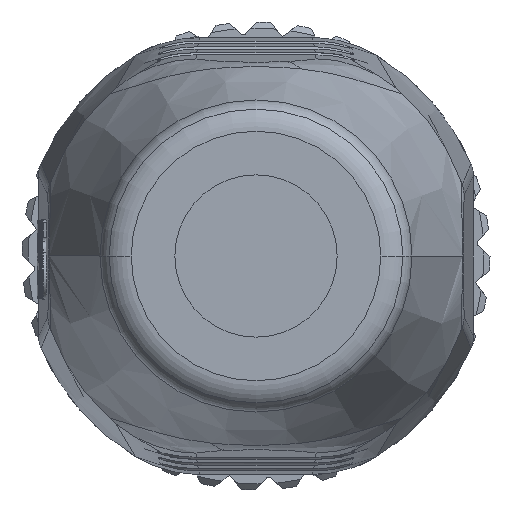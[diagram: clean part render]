
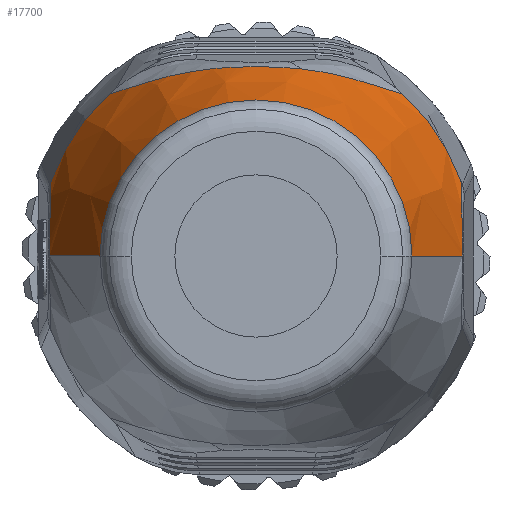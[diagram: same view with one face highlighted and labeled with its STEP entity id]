
A CAD part, front view. The second image highlights one B-rep face of the part: STEP entity #17700.
In plain terms, the highlighted conical face has half-angle 15.945 degrees and reference radius 6 mm.
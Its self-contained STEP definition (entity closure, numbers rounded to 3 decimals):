
#6381=CARTESIAN_POINT('',(6.576,-11.1,2.399));
#6382=CARTESIAN_POINT('',(6.583,-11.335,2.183));
#6383=CARTESIAN_POINT('',(6.592,-11.745,1.76));
#6384=CARTESIAN_POINT('',(6.603,-12.12,1.237));
#6385=CARTESIAN_POINT('',(6.613,-12.421,
0.526));
#6386=CARTESIAN_POINT('',(6.61,-12.464,
0.171));
#6387=CARTESIAN_POINT('',(6.613,-12.455,
0.));
#6394=CARTESIAN_POINT('',(6.576,-11.1,2.399));
#6430=CARTESIAN_POINT('',(-4.663,-11.157,
5.199));
#6431=CARTESIAN_POINT('',(-4.676,-11.137,
5.195));
#6432=CARTESIAN_POINT('',(-4.688,-11.117,
5.192));
#6433=CARTESIAN_POINT('',(-4.699,-11.1,
5.189));
#6435=CARTESIAN_POINT('',(1.425,-14.021,5.999));
#6436=CARTESIAN_POINT('',(1.115,-14.161,6.031));
#6437=CARTESIAN_POINT('',(0.533,-14.36,
6.062));
#6438=CARTESIAN_POINT('',(-0.197,-14.407,
6.067));
#6439=CARTESIAN_POINT('',(-0.927,-14.239,
6.044));
#6440=CARTESIAN_POINT('',(-1.572,-13.972,
5.992));
#6441=CARTESIAN_POINT('',(-2.44,-13.464,
5.856));
#6442=CARTESIAN_POINT('',(-3.21,-12.889,
5.656));
#6443=CARTESIAN_POINT('',(-3.95,-12.167,
5.422));
#6444=CARTESIAN_POINT('',(-4.426,-11.518,
5.272));
#6445=CARTESIAN_POINT('',(-4.663,-11.157,
5.199));
#6447=CARTESIAN_POINT('',(4.663,-11.157,5.199));
#6448=CARTESIAN_POINT('',(4.457,-11.481,5.259));
#6449=CARTESIAN_POINT('',(4.017,-12.085,5.401));
#6450=CARTESIAN_POINT('',(3.258,-12.855,5.643));
#6451=CARTESIAN_POINT('',(2.39,-13.502,5.868));
#6452=CARTESIAN_POINT('',(1.756,-13.861,5.967));
#6453=CARTESIAN_POINT('',(1.425,-14.021,5.999));
#6455=CARTESIAN_POINT('',(4.699,-11.1,5.189));
#6456=CARTESIAN_POINT('',(4.688,-11.117,5.192));
#6457=CARTESIAN_POINT('',(4.676,-11.137,5.195));
#6458=CARTESIAN_POINT('',(4.663,-11.157,5.199));
#6460=DIRECTION('',(0.275,0.962,0.));
#6461=VECTOR('',#6460,5.871);
#6462=CARTESIAN_POINT('',(5.,-18.1,0.));
#6463=LINE('',#6462,#6461);
#6464=CARTESIAN_POINT('',(0.,-18.1,0.));
#6465=DIRECTION('',(0.,1.,0.));
#6466=DIRECTION('',(-1.,0.,0.));
#6467=AXIS2_PLACEMENT_3D('',#6464,#6465,#6466);
#6469=DIRECTION('',(-0.275,0.962,0.));
#6470=VECTOR('',#6469,5.871);
#6471=CARTESIAN_POINT('',(-5.,-18.1,0.));
#6472=LINE('',#6471,#6470);
#6473=CARTESIAN_POINT('',(-4.663,-11.157,
5.199));
#6483=CARTESIAN_POINT('',(-4.699,-11.1,
5.189));
#6485=CARTESIAN_POINT('',(1.425,-14.021,5.999));
#6521=CARTESIAN_POINT('',(4.663,-11.157,5.199));
#6543=CARTESIAN_POINT('',(4.699,-11.1,5.189));
#6653=CARTESIAN_POINT('',(0.,-11.1,0.));
#6654=DIRECTION('',(0.,1.,0.));
#6655=DIRECTION('',(-0.939,0.,0.343));
#6656=AXIS2_PLACEMENT_3D('',#6653,#6654,#6655);
#6672=CARTESIAN_POINT('',(-6.576,-11.1,
2.399));
#6679=CARTESIAN_POINT('',(-6.613,-12.455,
0.));
#6680=CARTESIAN_POINT('',(-6.611,-12.462,
0.176));
#6681=CARTESIAN_POINT('',(-6.612,-12.415,
0.54));
#6682=CARTESIAN_POINT('',(-6.603,-12.136,
1.212));
#6683=CARTESIAN_POINT('',(-6.591,-11.733,
1.776));
#6684=CARTESIAN_POINT('',(-6.582,-11.331,
2.19));
#6685=CARTESIAN_POINT('',(-6.576,-11.1,
2.399));
#7551=CARTESIAN_POINT('',(0.,-11.1,0.));
#7552=DIRECTION('',(0.,1.,0.));
#7553=DIRECTION('',(0.671,0.,0.741));
#7554=AXIS2_PLACEMENT_3D('',#7551,#7552,#7553);
#8462=VERTEX_POINT('',#6394);
#8464=VERTEX_POINT('',#6543);
#8466=VERTEX_POINT('',#6672);
#8468=VERTEX_POINT('',#6483);
#9660=CARTESIAN_POINT('',(5.,-18.1,0.));
#9661=CARTESIAN_POINT('',(6.613,-12.455,
0.));
#9662=VERTEX_POINT('',#9660);
#9663=VERTEX_POINT('',#9661);
#9664=CARTESIAN_POINT('',(-5.,-18.1,0.));
#9665=CARTESIAN_POINT('',(-6.613,-12.455,
0.));
#9666=VERTEX_POINT('',#9664);
#9667=VERTEX_POINT('',#9665);
#9686=VERTEX_POINT('',#6521);
#9688=VERTEX_POINT('',#6485);
#9690=VERTEX_POINT('',#6473);
#17672=CARTESIAN_POINT('',(0.,-14.6,0.));
#17673=DIRECTION('',(0.,1.,0.));
#17674=DIRECTION('',(1.,0.,0.));
#17675=AXIS2_PLACEMENT_3D('',#17672,#17673,#17674);
#17676=CONICAL_SURFACE('',#17675,6.,15.945);
#17678=ORIENTED_EDGE('',*,*,#17677,.F.);
#17680=ORIENTED_EDGE('',*,*,#17679,.F.);
#17682=ORIENTED_EDGE('',*,*,#17681,.F.);
#17684=ORIENTED_EDGE('',*,*,#17683,.F.);
#17686=ORIENTED_EDGE('',*,*,#17685,.T.);
#17687=ORIENTED_EDGE('',*,*,#17656,.T.);
#17689=ORIENTED_EDGE('',*,*,#17688,.F.);
#17691=ORIENTED_EDGE('',*,*,#17690,.F.);
#17693=ORIENTED_EDGE('',*,*,#17692,.T.);
#17695=ORIENTED_EDGE('',*,*,#17694,.T.);
#17697=ORIENTED_EDGE('',*,*,#17696,.T.);
#17698=EDGE_LOOP('',(#17678,#17680,#17682,#17684,#17686,#17687,#17689,#17691,
#17693,#17695,#17697));
#17699=FACE_OUTER_BOUND('',#17698,.F.);
#6388=B_SPLINE_CURVE_WITH_KNOTS('',3,(#6381,#6382,#6383,#6384,#6385,#6386,
#6387),.UNSPECIFIED.,.F.,.F.,(4,1,1,1,4),(0.,0.25,0.5,0.75,1.),
.UNSPECIFIED.);
#6434=B_SPLINE_CURVE_WITH_KNOTS('',3,(#6430,#6431,#6432,#6433),.UNSPECIFIED.,
.F.,.F.,(4,4),(0.,1.),.UNSPECIFIED.);
#6446=B_SPLINE_CURVE_WITH_KNOTS('',3,(#6435,#6436,#6437,#6438,#6439,#6440,#6441,
#6442,#6443,#6444,#6445),.UNSPECIFIED.,.F.,.F.,(4,1,1,1,1,1,1,1,4),(0.,
0.125,0.25,0.375,0.5,0.625,0.75,0.875,1.),.UNSPECIFIED.);
#6454=B_SPLINE_CURVE_WITH_KNOTS('',3,(#6447,#6448,#6449,#6450,#6451,#6452,
#6453),.UNSPECIFIED.,.F.,.F.,(4,1,1,1,4),(0.,0.25,0.5,0.75,1.),
.UNSPECIFIED.);
#6459=B_SPLINE_CURVE_WITH_KNOTS('',3,(#6455,#6456,#6457,#6458),.UNSPECIFIED.,
.F.,.F.,(4,4),(0.,1.),.UNSPECIFIED.);
#6468=CIRCLE('',#6467,5.);
#6657=CIRCLE('',#6656,7.);
#6686=B_SPLINE_CURVE_WITH_KNOTS('',3,(#6679,#6680,#6681,#6682,#6683,#6684,
#6685),.UNSPECIFIED.,.F.,.F.,(4,1,1,1,4),(0.,0.25,0.5,0.75,1.),
.UNSPECIFIED.);
#7555=CIRCLE('',#7554,7.);
#17656=EDGE_CURVE('',#8462,#9663,#6388,.T.);
#17677=EDGE_CURVE('',#9690,#8468,#6434,.T.);
#17679=EDGE_CURVE('',#9688,#9690,#6446,.T.);
#17681=EDGE_CURVE('',#9686,#9688,#6454,.T.);
#17683=EDGE_CURVE('',#8464,#9686,#6459,.T.);
#17685=EDGE_CURVE('',#8464,#8462,#7555,.T.);
#17688=EDGE_CURVE('',#9662,#9663,#6463,.T.);
#17690=EDGE_CURVE('',#9666,#9662,#6468,.T.);
#17692=EDGE_CURVE('',#9666,#9667,#6472,.T.);
#17694=EDGE_CURVE('',#9667,#8466,#6686,.T.);
#17696=EDGE_CURVE('',#8466,#8468,#6657,.T.);
#17700=ADVANCED_FACE('',(#17699),#17676,.T.);
